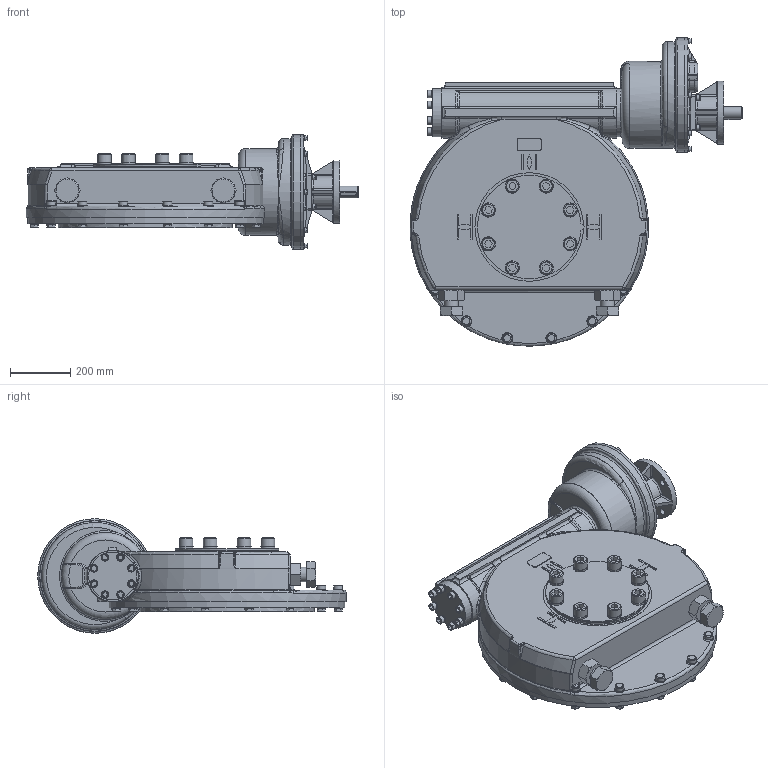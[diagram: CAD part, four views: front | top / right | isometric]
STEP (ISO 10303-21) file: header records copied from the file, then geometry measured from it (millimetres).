
FILE_DESCRIPTION( ( 'Unknown' ), '1' );
FILE_NAME( 'X:/CURRENT/PUB/IW/IW-2009/IW-2009-MODELS/IW - 3D Models Simplified STEP/PUB-IW115IR35-MOTF16_simplified.stp', 'Unknown', ( 'Unknown' ), ( 'Unknown' ), 'PSStep 15.0.49', 'Unknown', ' ' );
FILE_SCHEMA( ( 'AUTOMOTIVE_DESIGN { 1 0 10303 214 1 1 1 1 }' ) );
Length unit declared in the file: millimetre
Products named in the file (128): 1; 2; 3; 4; 5; 6; 7; 8; 9; 10; 11; 12; 13; 14; 15; 16; 17; 18; 19; 20; 21; 22; 23; 24; 25; 26; 27; 28; 29; 30; 31; 32; 33; 34; 35; 36; 37; 38; 39; 40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
Bounding box: 1106.47 x 1028.5 x 382 mm (x, y, z)
Surface area: 2840489 mm2 (no closed solid volume)
Topology: 0 solids, 1399 shells, 1399 faces, 8625 edges, 8426 vertices
Faces by surface type: plane 559, cylinder 356, cone 177, bspline 123, torus 110, sphere 74
Full cylindrical faces by diameter (mm): 16 x8, 16.6 x8, 18 x4, 19 x4, 20.5 x4, 24 x8, 30 x4, 32 x8, 40 x1, 45 x8, 47 x8, 48 x2, 126.92 x1, 160 x2, 170 x1, 210 x1, 250 x1, 290 x1, 340 x1, 356 x1, 362 x1, 382 x2, 580 x1, 785 x1
Entity records: 137903 total; most frequent: CARTESIAN_POINT 67858, DIRECTION 10791, VERTEX_POINT 8352, ORIENTED_EDGE 8344, EDGE_CURVE 8344, LINE 3643, VECTOR 3643, AXIS2_PLACEMENT_3D 3574
